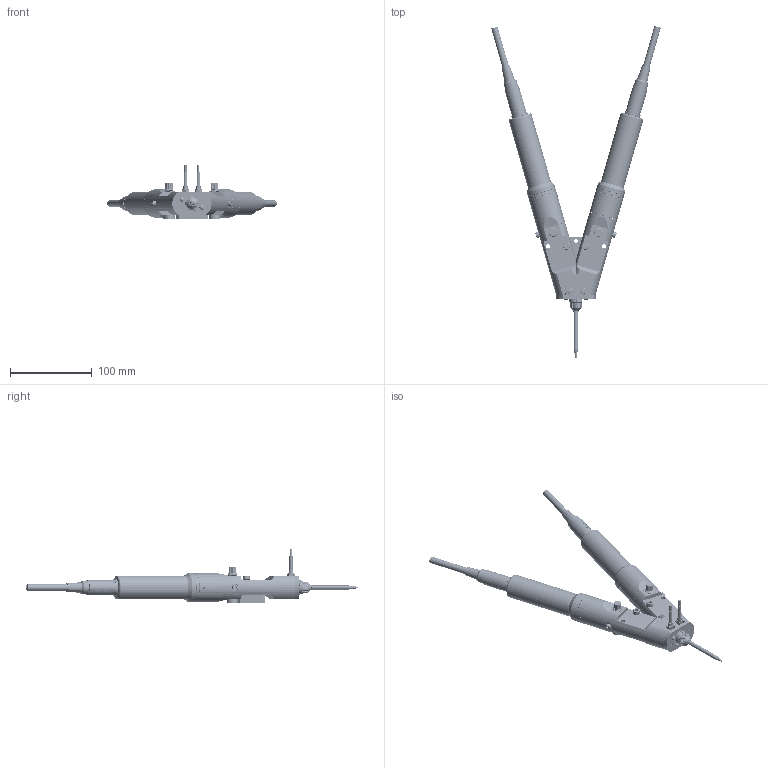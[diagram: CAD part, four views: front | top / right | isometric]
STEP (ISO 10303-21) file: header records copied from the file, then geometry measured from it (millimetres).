
FILE_DESCRIPTION(/* description */ (''),/* implementation_level */ '2;1');
FILE_NAME(/* name */ 'A:\3D Projects\3D Standard Parts\1774437 MM25 Dual Rotor Pump 4.0 LC SG-1206-10431 Garching\1774437 MM25 Dual Rotor Pump 4.0 LC.stp',/* time_stamp */ '2014-07-22T12:46:08-04:00',/* author */ ('patch'),/* organization */ (''),/* preprocessor_version */ 'ST-DEVELOPER v15.6',/* originating_system */ 'Autodesk Inventor 2015',/* authorisation */ '');
FILE_SCHEMA (('AUTOMOTIVE_DESIGN { 1 0 10303 214 3 1 1 }'));
Length unit declared in the file: inch
Products named in the file (34): 1774437 MM25 Dual Rotor Pump Mixer Connection 21028-1; 1774437 MM25 Dual Rotor Pump Sensor Seal Ring 20373-2; 1774437 MM25 Dual Rotor Pump Mixer End Plate 21030-2; 1774437 MM 25 Dual Rotor Pump Housing End 21027-1; 1774437 MM 25 Dual Rotor Pump Right Pump Housing 21029-1; 1774437 MM 25 Dual Rotor Pump Lower Rotor Seal Housing 20582-1_20584-
1; 1774437 MM 25 Dual Rotor Pump Upper Rotor Seal Housing 20582-1_20583-
1; 1774437 MM 25 Dual Rotor Pump Blind Plug G 0.125 20391-1; 1774437 MM 25 Dual Rotor Pump Spacer Ring 20232-1; 1774437 MM 25 Dual Rotor Pump Housing End 21027-2; 1774437 MM 25 Dual Rotor Pump Left Pump Housing 21029-2; 1774437 MM 25 Dual Rotor Pump Lower Rotor Seal Housing 20582-2_20584-
1; 1774437 MM 25 Dual Rotor Pump Upper Rotor Seal Housing 20582-2_20583-
1; 8902286 Flat Washer M4, 4.3 x 9 x 0.7; 8903079 Socket Head Cap Screw M4 x 8, 18-8 Stainless; 1774437 MM 25 Dual Rotor Pump Lower Drive Adapter 20211-1; 1774437 MM 25 Dual Rotor Pump Lower Drive 21035-1; 1774437 MM 25 Dual Rotor Pump Upper Drive 21034-1; 1774437 MM 25 Dual Rotor Pump Drive Cable Connection 20832-1; 8903650 Socket Head Cap Screw M3 x 6mm Stainless Steel; 8902751 Button Head Socket Screw M3 x 0.5 x 10; 8904205 Socket Head Cap Screw M3 x 0.5 x 40, 18-8 Stainless Steel; 8904203 Cone Point Socket Set Screw M3 x 0.5 x 8, Stainless Steel; 1774437 MM25 Dual Rotor Pump 4.0 LC Cable End; 1774437 Square Head Plug 0.125 BSPT; 8904204 Socket Head Cap Screw M5 x 0.8 x 25, 18-8 Stainless Steel; 1774437 MM25 Dual Rotor Pump Pressure Sensor 20598; 8902039 Static Mixer Elements; 8902039 Static Mixer Housing; 8902039 Static Mixer Cap; 1329200 Static Mix Nozzle 4 to 1 & 10 to 1, Red Hub, 16 Elements x 3.
2mm, Taper Tip; 1774437 MM 25 Dual Rotor Pump Mounting Bracket 21063; 1774437 MM 25 Dual Rotor Pump 8958240 Sub-Assembly; 1774437 MM25 Dual Rotor Pump 4.0 LC
Bounding box: 207.62 x 406.63 x 65.12 mm (x, y, z)
Volume: 415353.7 mm3; surface area: 140605.2 mm2
Topology: 84 solids, 88 shells, 2450 faces, 9963 edges, 7881 vertices
Faces by surface type: plane 1095, cylinder 657, cone 428, bspline 134, torus 108, sphere 28
Full cylindrical faces by diameter (mm): 0.6 x6, 0.7 x22, 1 x28, 1.727 x1, 2 x4, 2.459 x14, 2.5 x10, 2.6 x2, 2.84 x2, 3 x6, 3.1 x4, 3.2 x1, 3.254 x8, 3.3 x20, 3.749 x1, 4 x4, 4.2 x4, 4.3 x2, 4.47 x1, 4.5 x4, 4.54 x2, 4.999 x1, 5 x4, 5.1 x1, 5.3 x4, 5.349 x1, 5.5 x22, 5.6 x9, 5.7 x2, 7 x2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
Entity records: 119725 total; most frequent: CARTESIAN_POINT 79355, ORIENTED_EDGE 8300, DIRECTION 7521, EDGE_CURVE 4152, VERTEX_POINT 3146, AXIS2_PLACEMENT_3D 3086, EDGE_LOOP 2116, FACE_OUTER_BOUND 1560
